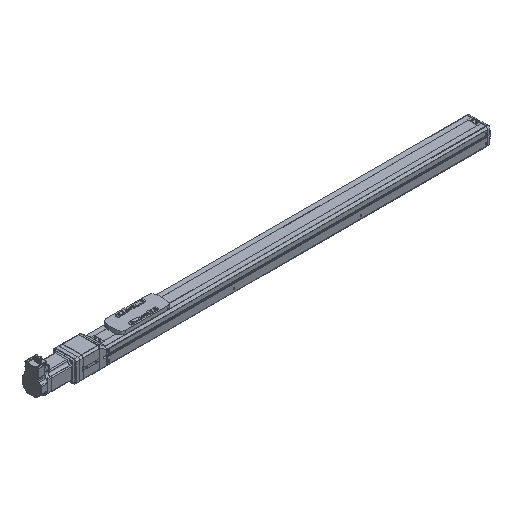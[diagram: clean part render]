
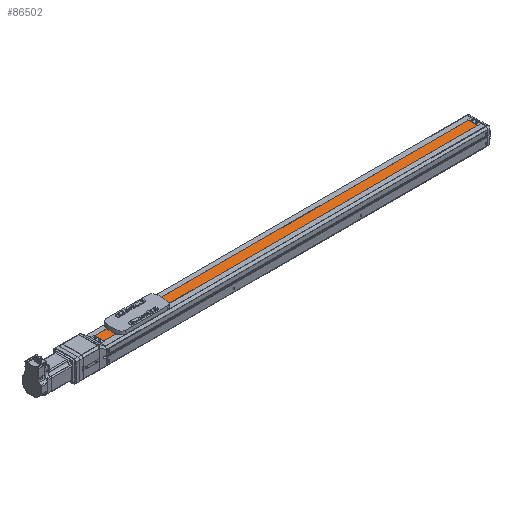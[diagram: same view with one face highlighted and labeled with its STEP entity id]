
A CAD part, isometric view. The second image highlights one B-rep face of the part: STEP entity #86502.
In plain terms, the highlighted planar face has unit normal (0, 0, 1) as drawn and (0, 1, 0) by its records, which use the part's own axes.
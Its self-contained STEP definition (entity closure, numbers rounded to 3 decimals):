
#86502 = ADVANCED_FACE('',(#86503),#86517,.T.);
#86503 = FACE_BOUND('',#86504,.T.);
#86504 = EDGE_LOOP('',(#86505,#86540,#86568,#86596));
#86505 = ORIENTED_EDGE('',*,*,#86506,.F.);
#86506 = EDGE_CURVE('',#86507,#86509,#86511,.T.);
#86507 = VERTEX_POINT('',#86508);
#86508 = CARTESIAN_POINT('',(-1080.5,18.,-13.));
#86509 = VERTEX_POINT('',#86510);
#86510 = CARTESIAN_POINT('',(-21.5,18.,-13.));
#86511 = SURFACE_CURVE('',#86512,(#86516,#86528),.PCURVE_S1.);
#86512 = LINE('',#86513,#86514);
#86513 = CARTESIAN_POINT('',(-1080.5,18.,-13.));
#86514 = VECTOR('',#86515,1.);
#86515 = DIRECTION('',(1.,0.,0.));
#86516 = PCURVE('',#86517,#86522);
#86517 = PLANE('',#86518);
#86518 = AXIS2_PLACEMENT_3D('',#86519,#86520,#86521);
#86519 = CARTESIAN_POINT('',(-1090.5,18.,-26.583));
#86520 = DIRECTION('',(0.,1.,0.));
#86521 = DIRECTION('',(0.,-0.,1.));
#86522 = DEFINITIONAL_REPRESENTATION('',(#86523),#86527);
#86523 = LINE('',#86524,#86525);
#86524 = CARTESIAN_POINT('',(13.583,10.));
#86525 = VECTOR('',#86526,1.);
#86526 = DIRECTION('',(0.,1.));
#86527 = ( GEOMETRIC_REPRESENTATION_CONTEXT(2) 
PARAMETRIC_REPRESENTATION_CONTEXT() REPRESENTATION_CONTEXT('2D SPACE',''
  ) );
#86528 = PCURVE('',#86529,#86534);
#86529 = PLANE('',#86530);
#86530 = AXIS2_PLACEMENT_3D('',#86531,#86532,#86533);
#86531 = CARTESIAN_POINT('',(-1080.5,18.,-13.));
#86532 = DIRECTION('',(0.,0.,1.));
#86533 = DIRECTION('',(1.,0.,-0.));
#86534 = DEFINITIONAL_REPRESENTATION('',(#86535),#86539);
#86535 = LINE('',#86536,#86537);
#86536 = CARTESIAN_POINT('',(0.,0.));
#86537 = VECTOR('',#86538,1.);
#86538 = DIRECTION('',(1.,0.));
#86539 = ( GEOMETRIC_REPRESENTATION_CONTEXT(2) 
PARAMETRIC_REPRESENTATION_CONTEXT() REPRESENTATION_CONTEXT('2D SPACE',''
  ) );
#86540 = ORIENTED_EDGE('',*,*,#86541,.T.);
#86541 = EDGE_CURVE('',#86507,#86542,#86544,.T.);
#86542 = VERTEX_POINT('',#86543);
#86543 = CARTESIAN_POINT('',(-1080.5,18.,13.));
#86544 = SURFACE_CURVE('',#86545,(#86549,#86556),.PCURVE_S1.);
#86545 = LINE('',#86546,#86547);
#86546 = CARTESIAN_POINT('',(-1080.5,18.,-26.583));
#86547 = VECTOR('',#86548,1.);
#86548 = DIRECTION('',(0.,0.,1.));
#86549 = PCURVE('',#86517,#86550);
#86550 = DEFINITIONAL_REPRESENTATION('',(#86551),#86555);
#86551 = LINE('',#86552,#86553);
#86552 = CARTESIAN_POINT('',(0.,10.));
#86553 = VECTOR('',#86554,1.);
#86554 = DIRECTION('',(1.,0.));
#86555 = ( GEOMETRIC_REPRESENTATION_CONTEXT(2) 
PARAMETRIC_REPRESENTATION_CONTEXT() REPRESENTATION_CONTEXT('2D SPACE',''
  ) );
#86556 = PCURVE('',#86557,#86562);
#86557 = PLANE('',#86558);
#86558 = AXIS2_PLACEMENT_3D('',#86559,#86560,#86561);
#86559 = CARTESIAN_POINT('',(-1080.5,0.,0.));
#86560 = DIRECTION('',(1.,0.,0.));
#86561 = DIRECTION('',(0.,0.,-1.));
#86562 = DEFINITIONAL_REPRESENTATION('',(#86563),#86567);
#86563 = LINE('',#86564,#86565);
#86564 = CARTESIAN_POINT('',(26.583,18.));
#86565 = VECTOR('',#86566,1.);
#86566 = DIRECTION('',(-1.,0.));
#86567 = ( GEOMETRIC_REPRESENTATION_CONTEXT(2) 
PARAMETRIC_REPRESENTATION_CONTEXT() REPRESENTATION_CONTEXT('2D SPACE',''
  ) );
#86568 = ORIENTED_EDGE('',*,*,#86569,.T.);
#86569 = EDGE_CURVE('',#86542,#86570,#86572,.T.);
#86570 = VERTEX_POINT('',#86571);
#86571 = CARTESIAN_POINT('',(-21.5,18.,13.));
#86572 = SURFACE_CURVE('',#86573,(#86577,#86584),.PCURVE_S1.);
#86573 = LINE('',#86574,#86575);
#86574 = CARTESIAN_POINT('',(-1080.5,18.,13.));
#86575 = VECTOR('',#86576,1.);
#86576 = DIRECTION('',(1.,0.,0.));
#86577 = PCURVE('',#86517,#86578);
#86578 = DEFINITIONAL_REPRESENTATION('',(#86579),#86583);
#86579 = LINE('',#86580,#86581);
#86580 = CARTESIAN_POINT('',(39.583,10.));
#86581 = VECTOR('',#86582,1.);
#86582 = DIRECTION('',(0.,1.));
#86583 = ( GEOMETRIC_REPRESENTATION_CONTEXT(2) 
PARAMETRIC_REPRESENTATION_CONTEXT() REPRESENTATION_CONTEXT('2D SPACE',''
  ) );
#86584 = PCURVE('',#86585,#86590);
#86585 = PLANE('',#86586);
#86586 = AXIS2_PLACEMENT_3D('',#86587,#86588,#86589);
#86587 = CARTESIAN_POINT('',(-1080.5,15.,13.));
#86588 = DIRECTION('',(0.,0.,-1.));
#86589 = DIRECTION('',(-1.,0.,0.));
#86590 = DEFINITIONAL_REPRESENTATION('',(#86591),#86595);
#86591 = LINE('',#86592,#86593);
#86592 = CARTESIAN_POINT('',(0.,3.));
#86593 = VECTOR('',#86594,1.);
#86594 = DIRECTION('',(-1.,0.));
#86595 = ( GEOMETRIC_REPRESENTATION_CONTEXT(2) 
PARAMETRIC_REPRESENTATION_CONTEXT() REPRESENTATION_CONTEXT('2D SPACE',''
  ) );
#86596 = ORIENTED_EDGE('',*,*,#86597,.T.);
#86597 = EDGE_CURVE('',#86570,#86509,#86598,.T.);
#86598 = SURFACE_CURVE('',#86599,(#86603,#86610),.PCURVE_S1.);
#86599 = LINE('',#86600,#86601);
#86600 = CARTESIAN_POINT('',(-21.5,18.,-26.583));
#86601 = VECTOR('',#86602,1.);
#86602 = DIRECTION('',(0.,0.,-1.));
#86603 = PCURVE('',#86517,#86604);
#86604 = DEFINITIONAL_REPRESENTATION('',(#86605),#86609);
#86605 = LINE('',#86606,#86607);
#86606 = CARTESIAN_POINT('',(0.,1069.));
#86607 = VECTOR('',#86608,1.);
#86608 = DIRECTION('',(-1.,0.));
#86609 = ( GEOMETRIC_REPRESENTATION_CONTEXT(2) 
PARAMETRIC_REPRESENTATION_CONTEXT() REPRESENTATION_CONTEXT('2D SPACE',''
  ) );
#86610 = PCURVE('',#86611,#86616);
#86611 = PLANE('',#86612);
#86612 = AXIS2_PLACEMENT_3D('',#86613,#86614,#86615);
#86613 = CARTESIAN_POINT('',(-21.5,0.,0.));
#86614 = DIRECTION('',(1.,0.,0.));
#86615 = DIRECTION('',(0.,0.,-1.));
#86616 = DEFINITIONAL_REPRESENTATION('',(#86617),#86621);
#86617 = LINE('',#86618,#86619);
#86618 = CARTESIAN_POINT('',(26.583,18.));
#86619 = VECTOR('',#86620,1.);
#86620 = DIRECTION('',(1.,0.));
#86621 = ( GEOMETRIC_REPRESENTATION_CONTEXT(2) 
PARAMETRIC_REPRESENTATION_CONTEXT() REPRESENTATION_CONTEXT('2D SPACE',''
  ) );
